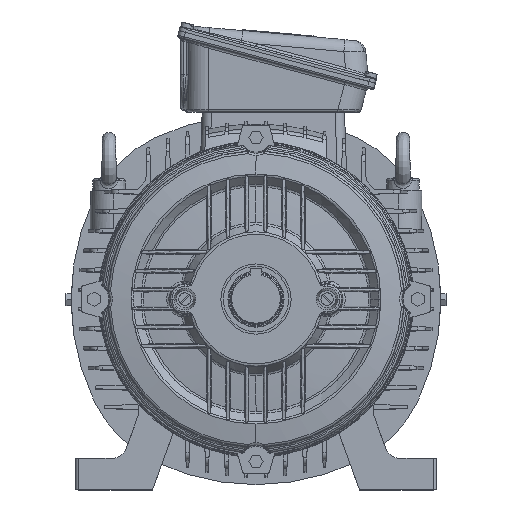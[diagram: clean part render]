
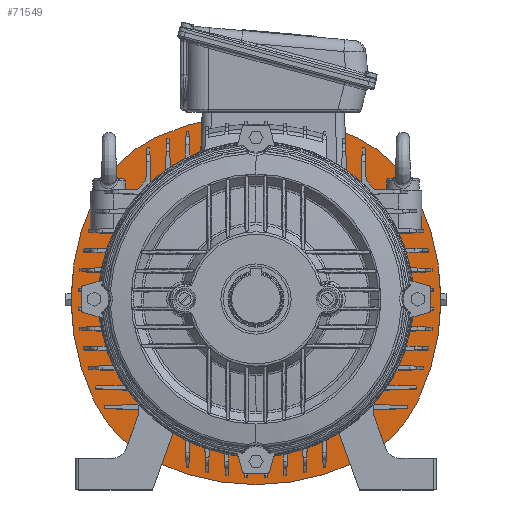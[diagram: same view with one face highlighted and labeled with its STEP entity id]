
A CAD part, top view. The second image highlights one B-rep face of the part: STEP entity #71549.
In plain terms, the highlighted planar face has unit normal (0, 0, 1).
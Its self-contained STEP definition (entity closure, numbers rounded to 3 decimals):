
#20628 = DIRECTION ( 'NONE',  ( -1., 0., 0. ) ) ;
#20629 = DIRECTION ( 'NONE',  ( 0., 0., -1. ) ) ;
#20630 = AXIS2_PLACEMENT_3D ( 'NONE', #20641, #20629, #20628 ) ;
#20639 = CIRCLE ( 'NONE', #20630, 250. ) ;
#20641 = CARTESIAN_POINT ( 'NONE',  ( 0., 52.5, -171.15 ) ) ;
#20652 = DIRECTION ( 'NONE',  ( -1., 0., 0. ) ) ;
#20653 = DIRECTION ( 'NONE',  ( 0., 0., -1. ) ) ;
#20654 = CARTESIAN_POINT ( 'NONE',  ( 0., -52.5, -171.15 ) ) ;
#20655 = AXIS2_PLACEMENT_3D ( 'NONE', #20654, #20653, #20652 ) ;
#20656 = CIRCLE ( 'NONE', #20655, 250. ) ;
#20657 = CARTESIAN_POINT ( 'NONE',  ( 108.19, 172.877, -171.15 ) ) ;
#24915 = VERTEX_POINT ( 'NONE', #101682 ) ;
#58957 = CARTESIAN_POINT ( 'NONE',  ( -167.5, 0., -171.15 ) ) ;
#59045 = CARTESIAN_POINT ( 'NONE',  ( 167.5, 0., -171.15 ) ) ;
#59130 = DIRECTION ( 'NONE',  ( -1., 0., 0. ) ) ;
#59132 = DIRECTION ( 'NONE',  ( 0., 0., -1. ) ) ;
#59133 = CARTESIAN_POINT ( 'NONE',  ( 0., 0., -171.15 ) ) ;
#59135 = AXIS2_PLACEMENT_3D ( 'NONE', #59133, #59132, #59130 ) ;
#59137 = CIRCLE ( 'NONE', #59135, 167.5 ) ;
#63572 = CARTESIAN_POINT ( 'NONE',  ( 52.5, 0., -171.15 ) ) ;
#63644 = DIRECTION ( 'NONE',  ( -1., 0., 0. ) ) ;
#63646 = DIRECTION ( 'NONE',  ( 0., 0., -1. ) ) ;
#63648 = AXIS2_PLACEMENT_3D ( 'NONE', #63572, #63646, #63644 ) ;
#63650 = CIRCLE ( 'NONE', #63648, 250. ) ;
#65725 = CARTESIAN_POINT ( 'NONE',  ( -172.877, 108.19, -171.15 ) ) ;
#66421 = VERTEX_POINT ( 'NONE', #102475 ) ;
#70930 = EDGE_CURVE ( 'NONE', #71677, #71566, #104170, .T. ) ;
#71524 = ORIENTED_EDGE ( 'NONE', *, *, #71526, .F. ) ;
#71526 = EDGE_CURVE ( 'NONE', #90401, #66421, #104563, .T. ) ;
#71529 = ORIENTED_EDGE ( 'NONE', *, *, #90399, .F. ) ;
#71530 = ORIENTED_EDGE ( 'NONE', *, *, #71531, .F. ) ;
#71531 = EDGE_CURVE ( 'NONE', #71532, #24915, #104558, .T. ) ;
#71532 = VERTEX_POINT ( 'NONE', #104553 ) ;
#71534 = ORIENTED_EDGE ( 'NONE', *, *, #71536, .F. ) ;
#71536 = EDGE_CURVE ( 'NONE', #71539, #71532, #104552, .T. ) ;
#71539 = VERTEX_POINT ( 'NONE', #104547 ) ;
#71541 = ORIENTED_EDGE ( 'NONE', *, *, #71651, .F. ) ;
#71549 = ADVANCED_FACE ( 'NONE', ( #104607, #104606 ), #104605, .F. ) ;
#71552 = EDGE_LOOP ( 'NONE', ( #71556, #71561, #71568, #71679, #71524, #71529, #71530, #71534, #71541 ) ) ;
#71556 = ORIENTED_EDGE ( 'NONE', *, *, #71557, .F. ) ;
#71557 = EDGE_CURVE ( 'NONE', #71558, #71559, #104600, .T. ) ;
#71558 = VERTEX_POINT ( 'NONE', #104595 ) ;
#71559 = VERTEX_POINT ( 'NONE', #104594 ) ;
#71561 = ORIENTED_EDGE ( 'NONE', *, *, #71563, .F. ) ;
#71563 = EDGE_CURVE ( 'NONE', #71566, #71558, #104593, .T. ) ;
#71566 = VERTEX_POINT ( 'NONE', #104588 ) ;
#71568 = ORIENTED_EDGE ( 'NONE', *, *, #70930, .F. ) ;
#71651 = EDGE_CURVE ( 'NONE', #71559, #71539, #20639, .T. ) ;
#71653 = EDGE_LOOP ( 'NONE', ( #71655, #71657 ) ) ;
#71655 = ORIENTED_EDGE ( 'NONE', *, *, #89610, .T. ) ;
#71657 = ORIENTED_EDGE ( 'NONE', *, *, #93387, .T. ) ;
#71677 = VERTEX_POINT ( 'NONE', #20657 ) ;
#71679 = ORIENTED_EDGE ( 'NONE', *, *, #71680, .F. ) ;
#71680 = EDGE_CURVE ( 'NONE', #66421, #71677, #20656, .T. ) ;
#77651 = DIRECTION ( 'NONE',  ( -1., 0., 0. ) ) ;
#77653 = DIRECTION ( 'NONE',  ( 0., 0., -1. ) ) ;
#77655 = CARTESIAN_POINT ( 'NONE',  ( 0., 0., -171.15 ) ) ;
#77657 = AXIS2_PLACEMENT_3D ( 'NONE', #77655, #77653, #77651 ) ;
#77659 = CIRCLE ( 'NONE', #77657, 167.5 ) ;
#89580 = VERTEX_POINT ( 'NONE', #58957 ) ;
#89592 = VERTEX_POINT ( 'NONE', #59045 ) ;
#89610 = EDGE_CURVE ( 'NONE', #89580, #89592, #59137, .T. ) ;
#90399 = EDGE_CURVE ( 'NONE', #24915, #90401, #63650, .T. ) ;
#90401 = VERTEX_POINT ( 'NONE', #65725 ) ;
#93387 = EDGE_CURVE ( 'NONE', #89592, #89580, #77659, .T. ) ;
#101682 = CARTESIAN_POINT ( 'NONE',  ( -197.5, 0., -171.15 ) ) ;
#102475 = CARTESIAN_POINT ( 'NONE',  ( -108.19, 172.877, -171.15 ) ) ;
#104170 = CIRCLE ( 'NONE', #104210, 138. ) ;
#104207 = DIRECTION ( 'NONE',  ( -1., 0., 0. ) ) ;
#104208 = DIRECTION ( 'NONE',  ( 0., 0., -1. ) ) ;
#104209 = CARTESIAN_POINT ( 'NONE',  ( 48.469, 48.469, -171.15 ) ) ;
#104210 = AXIS2_PLACEMENT_3D ( 'NONE', #104209, #104208, #104207 ) ;
#104547 = CARTESIAN_POINT ( 'NONE',  ( -108.19, -172.877, -171.15 ) ) ;
#104548 = DIRECTION ( 'NONE',  ( -1., 0., 0. ) ) ;
#104549 = DIRECTION ( 'NONE',  ( 0., 0., -1. ) ) ;
#104550 = CARTESIAN_POINT ( 'NONE',  ( -48.469, -48.469, -171.15 ) ) ;
#104551 = AXIS2_PLACEMENT_3D ( 'NONE', #104550, #104549, #104548 ) ;
#104552 = CIRCLE ( 'NONE', #104551, 138. ) ;
#104553 = CARTESIAN_POINT ( 'NONE',  ( -172.877, -108.19, -171.15 ) ) ;
#104554 = DIRECTION ( 'NONE',  ( -1., 0., 0. ) ) ;
#104555 = DIRECTION ( 'NONE',  ( 0., 0., -1. ) ) ;
#104556 = CARTESIAN_POINT ( 'NONE',  ( 52.5, 0., -171.15 ) ) ;
#104557 = AXIS2_PLACEMENT_3D ( 'NONE', #104556, #104555, #104554 ) ;
#104558 = CIRCLE ( 'NONE', #104557, 250. ) ;
#104559 = DIRECTION ( 'NONE',  ( -1., 0., 0. ) ) ;
#104560 = DIRECTION ( 'NONE',  ( 0., 0., -1. ) ) ;
#104561 = CARTESIAN_POINT ( 'NONE',  ( -48.469, 48.469, -171.15 ) ) ;
#104562 = AXIS2_PLACEMENT_3D ( 'NONE', #104561, #104560, #104559 ) ;
#104563 = CIRCLE ( 'NONE', #104562, 138. ) ;
#104588 = CARTESIAN_POINT ( 'NONE',  ( 172.877, 108.19, -171.15 ) ) ;
#104589 = DIRECTION ( 'NONE',  ( -1., 0., 0. ) ) ;
#104590 = DIRECTION ( 'NONE',  ( 0., 0., -1. ) ) ;
#104591 = CARTESIAN_POINT ( 'NONE',  ( -52.5, 0., -171.15 ) ) ;
#104592 = AXIS2_PLACEMENT_3D ( 'NONE', #104591, #104590, #104589 ) ;
#104593 = CIRCLE ( 'NONE', #104592, 250. ) ;
#104594 = CARTESIAN_POINT ( 'NONE',  ( 108.19, -172.877, -171.15 ) ) ;
#104595 = CARTESIAN_POINT ( 'NONE',  ( 172.877, -108.19, -171.15 ) ) ;
#104596 = DIRECTION ( 'NONE',  ( -1., 0., 0. ) ) ;
#104597 = DIRECTION ( 'NONE',  ( 0., 0., -1. ) ) ;
#104598 = CARTESIAN_POINT ( 'NONE',  ( 48.469, -48.469, -171.15 ) ) ;
#104599 = AXIS2_PLACEMENT_3D ( 'NONE', #104598, #104597, #104596 ) ;
#104600 = CIRCLE ( 'NONE', #104599, 138. ) ;
#104601 = DIRECTION ( 'NONE',  ( -1., 0., 0. ) ) ;
#104602 = DIRECTION ( 'NONE',  ( 0., 0., -1. ) ) ;
#104603 = CARTESIAN_POINT ( 'NONE',  ( 24.235, 2.015, -171.15 ) ) ;
#104604 = AXIS2_PLACEMENT_3D ( 'NONE', #104603, #104602, #104601 ) ;
#104605 = PLANE ( 'NONE',  #104604 ) ;
#104606 = FACE_BOUND ( 'NONE', #71653, .T. ) ;
#104607 = FACE_OUTER_BOUND ( 'NONE', #71552, .T. ) ;
